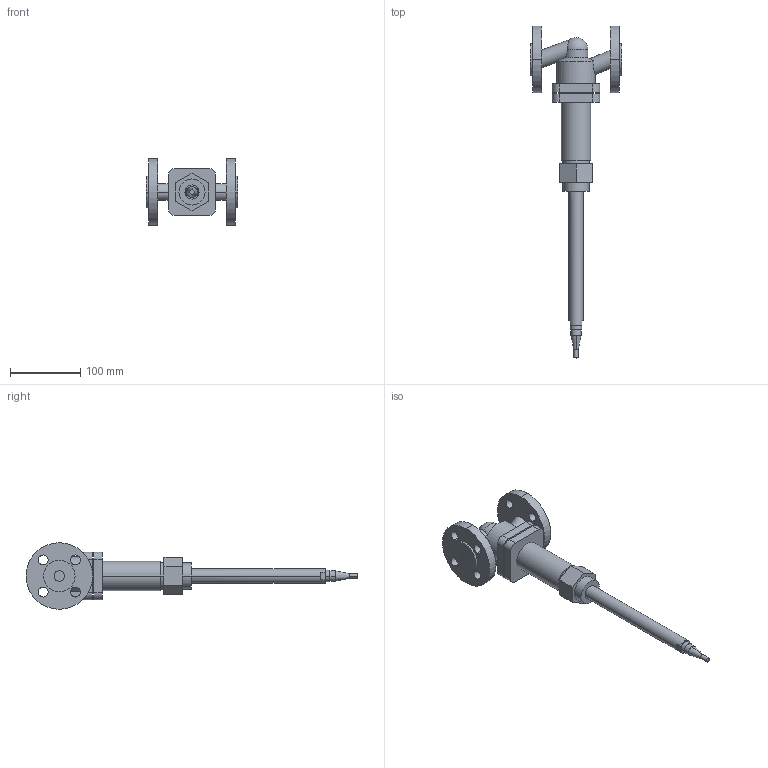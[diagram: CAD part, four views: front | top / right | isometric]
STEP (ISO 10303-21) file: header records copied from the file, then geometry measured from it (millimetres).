
FILE_DESCRIPTION(('CoCreate Modeling STEP Export'),'2;1');
FILE_NAME('c000001230.stp','2011-09-21T 8:38:15',(''),(''),'CoCreate Modeling STEP processor for AP214 (Solid Model)','CoCreate Modeling 17.0 01-Apr-2010 (C) Parametric Technology GmbH','');
FILE_SCHEMA(('AUTOMOTIVE_DESIGN { 1 0 10303 214 1 1 1 1 }'));
Length unit declared in the file: millimetre
Products named in the file (1): 1
Bounding box: 130 x 473.54 x 95 mm (x, y, z)
Volume: 671757.9 mm3; surface area: 102911.2 mm2
Topology: 1 solids, 1 shells, 118 faces, 289 edges, 190 vertices
Faces by surface type: cylinder 60, plane 52, cone 4, sphere 2
Entity records: 5275 total; most frequent: CARTESIAN_POINT 1693, ORIENTED_EDGE 574, DIRECTION 484, EDGE_CURVE 287, VERTEX_POINT 190, AXIS2_PLACEMENT_3D 169, EDGE_LOOP 153, VECTOR 146
